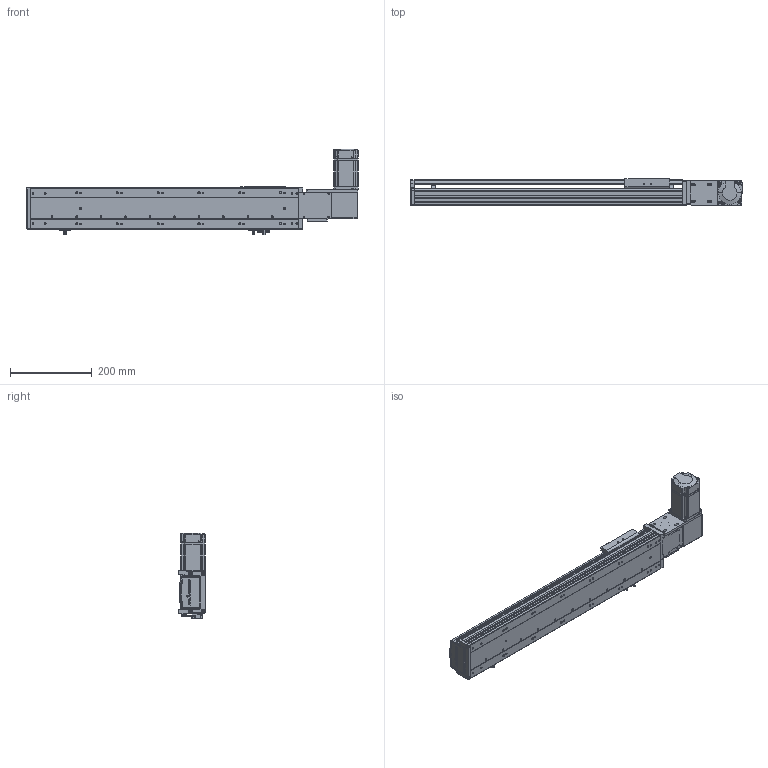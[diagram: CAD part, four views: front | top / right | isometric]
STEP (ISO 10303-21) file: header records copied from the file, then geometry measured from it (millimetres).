
FILE_DESCRIPTION (( 'STEP AP203' ), '1' );
FILE_NAME ('RY100-T-300-RK.SLDASM_450.step', '2024-04-25T08:21:46', ( '盈信电脑' ), ( '东莞市道滘镇水果街19号' ), 'SwSTEP 2.0', 'SolidWorks 2016', '' );
FILE_SCHEMA (( 'CONFIG_CONTROL_DESIGN' ));
Length unit declared in the file: millimetre
Products named in the file (15): 覜茼ん672; RY100綴裔啣; 滅袉蝶18-10; 侂狟200W萇儂; 1; RY100-T-300-RK倰第菁釱_450; RY100-T肮祭謫臏賑輸; RY100-T肮祭謫翋盓傅釱; RY100-T粣創揤踡裔; RY100-T左右折电机安装板; RY100-T-300-RK倰第奻裔_450; RY100-T翋肮祭謫裔啣2; RY100俋离覜茼え; RY80-T肮祭謫俋欶; RY100-T-300-RK.SLDASM_450
Assembly tree (18 placements, depth 3):
  RY100-T-300-RK.SLDASM_450
    RY100-T-300-RK倰第菁釱_450
    RY100-T-300-RK倰第奻裔_450
    RY100-T肮祭謫臏賑輸
    RY100綴裔啣
    覜茼ん672  x3
    RY100俋离覜茼え
    RY100-T肮祭謫翋盓傅釱
    RY100-T左右折电机安装板
    侂狟200W萇儂
      1
    RY100-T粣創揤踡裔
    滅袉蝶18-10  x2
    RY100-T翋肮祭謫裔啣2  x2
    RY80-T肮祭謫俋欶
Bounding box: 814 x 66 x 209.7 mm (x, y, z)
Volume: 1746916.2 mm3; surface area: 688471 mm2
Topology: 17 solids, 17 shells, 2143 faces, 5950 edges, 3866 vertices
Faces by surface type: plane 1185, cylinder 751, cone 129, bspline 78
Entity records: 68150 total; most frequent: CARTESIAN_POINT 16411, ORIENTED_EDGE 10636, DIRECTION 10110, EDGE_CURVE 5318, VERTEX_POINT 3502, LINE 3482, VECTOR 3482, AXIS2_PLACEMENT_3D 3314
